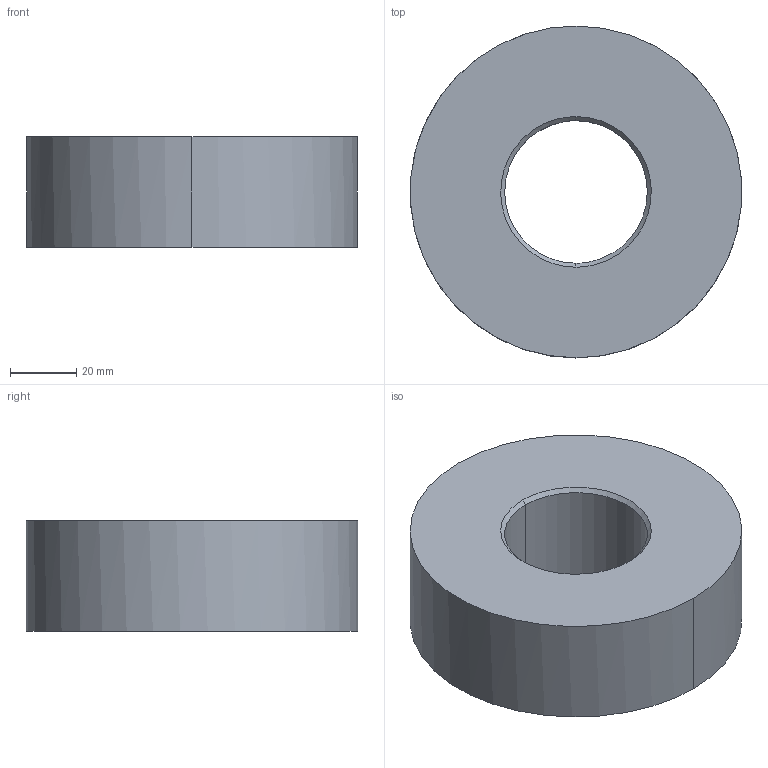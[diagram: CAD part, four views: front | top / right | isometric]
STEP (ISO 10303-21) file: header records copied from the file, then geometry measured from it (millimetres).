
FILE_DESCRIPTION (( 'STEP AP214' ), '1' );
FILE_NAME ('SM71-M42-2000KN U-Scheibe.STEP', '2023-09-26T09:39:36', ( '' ), ( '' ), 'SwSTEP 2.0', 'SolidWorks 2019', '' );
FILE_SCHEMA (( 'AUTOMOTIVE_DESIGN' ));
Length unit declared in the file: millimetre
Products named in the file (2): SM71-M42-2000KN U-Scheibe
Bounding box: 99.74 x 100 x 33.4 mm (x, y, z)
Volume: 213722.1 mm3; surface area: 27715.5 mm2
Topology: 1 solids, 1 shells, 8 faces, 16 edges, 10 vertices
Faces by surface type: bspline 6, plane 2
Entity records: 401 total; most frequent: CARTESIAN_POINT 218, ORIENTED_EDGE 32, EDGE_CURVE 16, DIRECTION 14, B_SPLINE_CURVE_WITH_KNOTS 10, VERTEX_POINT 10, EDGE_LOOP 10, FACE_OUTER_BOUND 8
